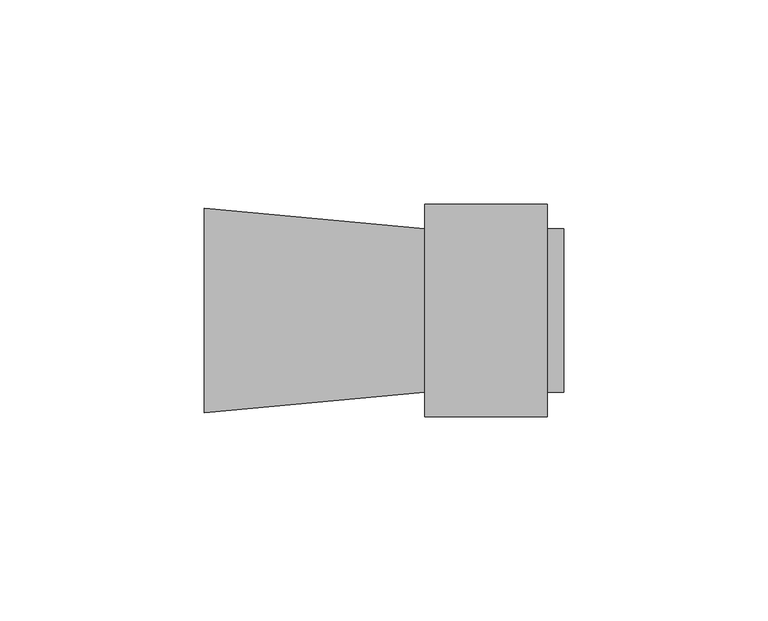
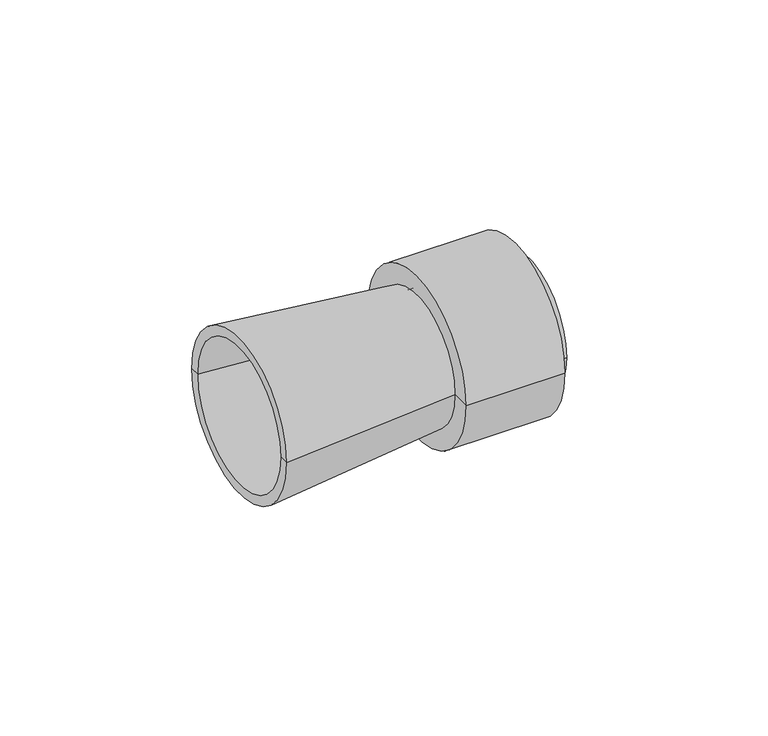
"""IFC4 building model written with IfcOpenShell, lengths in millimetres: cable carrier fitting geometry, КНС_ПереходникАрмированнаяТрубаЖесткаяТруба_IP67_DKC : Коробка."""

from ifc_helpers import new_model, si_unit, frame, origin, place, context, project, spatial, polyline, circle_curve, source, transform, mapped, element, save
from ifc_brep_helpers import plane_surface, cylinder_surface, revolved_surface, advanced_brep


def cable_carrier_fitting_637ef5a0(model_context):
    return source(origin(), model_context, "Body", "AdvancedBrep", [
        advanced_brep(
        [(-54.0, -25.0, 0.0), (-54.0, 25.0, 0.0), (0.0, 20.0, 0.0), (0.0, -20.0, 0.0), (-54.0, -21.9871674, 0.0), (-54.0, 21.9871674, 0.0), (0.0, -16.9871674, 0.0), (0.0, 16.9871674, 0.0)],
        [
            (0, 1, circle_curve(frame((-54.0, 0.0, 0.0), z_axis=(1.0, 0.0, 0.0), x_axis=(0.0, 1.0, 0.0)), 25.0)),
            (1, 2),
            (2, 3, circle_curve(frame((0.0, 0.0, 0.0), z_axis=(-1.0, 0.0, 0.0), x_axis=(0.0, 1.0, 0.0)), 20.0)),
            (3, 0),
            (1, 0, circle_curve(frame((-54.0, 0.0, 0.0), z_axis=(1.0, 0.0, 0.0), x_axis=(0.0, 1.0, 0.0)), 25.0)),
            (3, 2, circle_curve(frame((0.0, 0.0, 0.0), z_axis=(-1.0, 0.0, 0.0), x_axis=(0.0, 1.0, 0.0)), 20.0)),
            (4, 5, circle_curve(frame((-54.0, 0.0, 0.0), z_axis=(1.0, 0.0, 0.0), x_axis=(0.0, 1.0, 0.0)), 21.9871674)),
            (5, 1),
            (0, 4),
            (5, 4, circle_curve(frame((-54.0, 0.0, 0.0), z_axis=(1.0, 0.0, 0.0), x_axis=(0.0, 1.0, 0.0)), 21.9871674)),
            (6, 7, circle_curve(frame((0.0, 0.0, 0.0), z_axis=(1.0, 0.0, 0.0), x_axis=(0.0, 1.0, 0.0)), 16.9871674)),
            (7, 5),
            (4, 6),
            (7, 6, circle_curve(frame((0.0, 0.0, 0.0), z_axis=(1.0, 0.0, 0.0), x_axis=(0.0, 1.0, 0.0)), 16.9871674)),
            (2, 7),
            (6, 3),
        ],
        [
            revolved_surface(polyline([(0.0, 20.0, 0.0), (-54.0, 25.0, 0.0)]), (1525.0, 0.0, 0.0), (-1.0, 0.0, 0.0)),
            plane_surface(frame((-54.0, 0.0, 0.0), z_axis=(-1.0, 0.0, 0.0), x_axis=(0.0, 1.0, 0.0))),
            revolved_surface(polyline([(-54.0, 21.9871674, 0.0), (0.0, 16.9871674, 0.0)]), (1525.0, 0.0, 0.0), (-1.0, 0.0, 0.0)),
            plane_surface(frame((0.0, 0.0, 0.0), z_axis=(1.0, 0.0, 0.0), x_axis=(0.0, 1.0, 0.0))),
        ],
        [
            (0, [[1, 2, 3, 4]]),
            (0, [[5, -4, 6, -2]]),
            (1, [[7, 8, -1, 9]]),
            (1, [[10, -9, -5, -8]]),
            (2, [[11, 12, -7, 13]]),
            (2, [[14, -13, -10, -12]]),
            (3, [[-3, 15, -11, 16]]),
            (3, [[-6, -16, -14, -15]]),
        ],
    ),
        advanced_brep(
        [(3.0, -17.5, 0.0), (3.0, 17.5, 0.0), (3.0, 0.0, 0.0), (34.0, -17.5, 0.0), (34.0, 17.5, 0.0), (34.0, -20.0, 0.0), (34.0, 20.0, 0.0), (3.0, -20.0, 0.0), (3.0, 20.0, 0.0), (3.0, -23.2376891, 0.0), (3.0, 23.2376891, 0.0), (30.0, -23.2376891, 0.0), (30.0, 23.2376891, 0.0), (30.0, -26.0, 0.0), (30.0, 26.0, 0.0), (0.0, -26.0, 0.0), (0.0, 26.0, 0.0), (0.0, 0.0, 0.0)],
        [
            (0, 1, circle_curve(frame((3.0, 0.0, 0.0), z_axis=(1.0, 0.0, 0.0), x_axis=(0.0, 1.0, 0.0)), 17.5)),
            (1, 2),
            (2, 0),
            (1, 0, circle_curve(frame((3.0, 0.0, 0.0), z_axis=(1.0, 0.0, 0.0), x_axis=(0.0, 1.0, 0.0)), 17.5)),
            (3, 4, circle_curve(frame((34.0, 0.0, 0.0), z_axis=(1.0, 0.0, 0.0), x_axis=(0.0, 1.0, 0.0)), 17.5)),
            (4, 1),
            (0, 3),
            (4, 3, circle_curve(frame((34.0, 0.0, 0.0), z_axis=(1.0, 0.0, 0.0), x_axis=(0.0, 1.0, 0.0)), 17.5)),
            (5, 6, circle_curve(frame((34.0, 0.0, 0.0), z_axis=(1.0, 0.0, 0.0), x_axis=(0.0, 1.0, 0.0)), 20.0)),
            (6, 4),
            (3, 5),
            (6, 5, circle_curve(frame((34.0, 0.0, 0.0), z_axis=(1.0, 0.0, 0.0), x_axis=(0.0, 1.0, 0.0)), 20.0)),
            (7, 8, circle_curve(frame((3.0, 0.0, 0.0), z_axis=(1.0, 0.0, 0.0), x_axis=(0.0, 1.0, 0.0)), 20.0)),
            (8, 6),
            (5, 7),
            (8, 7, circle_curve(frame((3.0, 0.0, 0.0), z_axis=(1.0, 0.0, 0.0), x_axis=(0.0, 1.0, 0.0)), 20.0)),
            (9, 10, circle_curve(frame((3.0, 0.0, 0.0), z_axis=(1.0, 0.0, 0.0), x_axis=(0.0, 1.0, 0.0)), 23.2376891)),
            (10, 8),
            (7, 9),
            (10, 9, circle_curve(frame((3.0, 0.0, 0.0), z_axis=(1.0, 0.0, 0.0), x_axis=(0.0, 1.0, 0.0)), 23.2376891)),
            (11, 12, circle_curve(frame((30.0, 0.0, 0.0), z_axis=(1.0, 0.0, 0.0), x_axis=(0.0, 1.0, 0.0)), 23.2376891)),
            (12, 10),
            (9, 11),
            (12, 11, circle_curve(frame((30.0, 0.0, 0.0), z_axis=(1.0, 0.0, 0.0), x_axis=(0.0, 1.0, 0.0)), 23.2376891)),
            (13, 14, circle_curve(frame((30.0, 0.0, 0.0), z_axis=(1.0, 0.0, 0.0), x_axis=(0.0, 1.0, 0.0)), 26.0)),
            (14, 12),
            (11, 13),
            (14, 13, circle_curve(frame((30.0, 0.0, 0.0), z_axis=(1.0, 0.0, 0.0), x_axis=(0.0, 1.0, 0.0)), 26.0)),
            (15, 16, circle_curve(frame((0.0, 0.0, 0.0), z_axis=(1.0, 0.0, 0.0), x_axis=(0.0, 1.0, 0.0)), 26.0)),
            (16, 14),
            (13, 15),
            (16, 15, circle_curve(frame((0.0, 0.0, 0.0), z_axis=(1.0, 0.0, 0.0), x_axis=(0.0, 1.0, 0.0)), 26.0)),
            (17, 16),
            (15, 17),
        ],
        [
            plane_surface(frame((3.0, 0.0, 0.0), z_axis=(1.0, 0.0, 0.0), x_axis=(0.0, 1.0, 0.0))),
            revolved_surface(polyline([(3.0, 17.5, 0.0), (34.0, 17.5, 0.0)]), (1529.5, 0.0, 0.0), (-1.0, 0.0, 0.0)),
            plane_surface(frame((34.0, 0.0, 0.0), z_axis=(1.0, 0.0, 0.0), x_axis=(0.0, 1.0, 0.0))),
            cylinder_surface(frame((1529.5, 0.0, 0.0), z_axis=(-1.0, 0.0, 0.0), x_axis=(0.0, 1.0, 0.0)), 20.0),
            revolved_surface(polyline([(3.0, 23.2376891, 0.0), (30.0, 23.2376891, 0.0)]), (1529.5, 0.0, 0.0), (-1.0, 0.0, 0.0)),
            plane_surface(frame((30.0, 0.0, 0.0), z_axis=(1.0, 0.0, 0.0), x_axis=(0.0, 1.0, 0.0))),
            cylinder_surface(frame((1529.5, 0.0, 0.0), z_axis=(-1.0, 0.0, 0.0), x_axis=(0.0, 1.0, 0.0)), 26.0),
            plane_surface(frame((0.0, 0.0, 0.0), z_axis=(-1.0, 0.0, 0.0), x_axis=(0.0, 1.0, 0.0))),
        ],
        [
            (0, [[1, 2, 3]]),
            (0, [[4, -3, -2]]),
            (1, [[5, 6, -1, 7]]),
            (1, [[8, -7, -4, -6]]),
            (2, [[9, 10, -5, 11]]),
            (2, [[12, -11, -8, -10]]),
            (3, [[13, 14, -9, 15]]),
            (3, [[16, -15, -12, -14]]),
            (0, [[17, 18, -13, 19]]),
            (0, [[20, -19, -16, -18]]),
            (4, [[21, 22, -17, 23]]),
            (4, [[24, -23, -20, -22]]),
            (5, [[25, 26, -21, 27]]),
            (5, [[28, -27, -24, -26]]),
            (6, [[29, 30, -25, 31]]),
            (6, [[32, -31, -28, -30]]),
            (7, [[33, -29, 34]]),
            (7, [[-34, -32, -33]]),
        ],
    ),
    ])


if __name__ == "__main__":
    model = new_model("IFC4")
    model_context = context("Model", 3, world=origin())
    ifc_project = project(units=[si_unit("LENGTHUNIT", "METRE", prefix="MILLI")], contexts=[model_context])
    site = spatial("IfcSite", under=ifc_project)
    building = spatial("IfcBuilding", under=site)
    placement = place(None, origin())
    cable_carrier_fitting_shape = cable_carrier_fitting_637ef5a0(model_context)
    element("IfcCableCarrierFitting", 1, ObjectType="КНС_ПереходникАрмированнаяТрубаЖесткаяТруба_IP67_DKC : Коробка", at=placement, inside=building, context=model_context, shape_type="MappedRepresentation", body=[
        mapped(cable_carrier_fitting_shape, transform((0.0, 0.0, 0.0), x_axis=(1.0, 0.0, 0.0), y_axis=(0.0, 1.0, 0.0), z_axis=(0.0, 0.0, 1.0))),
    ])
    save(model, "model.ifc")
